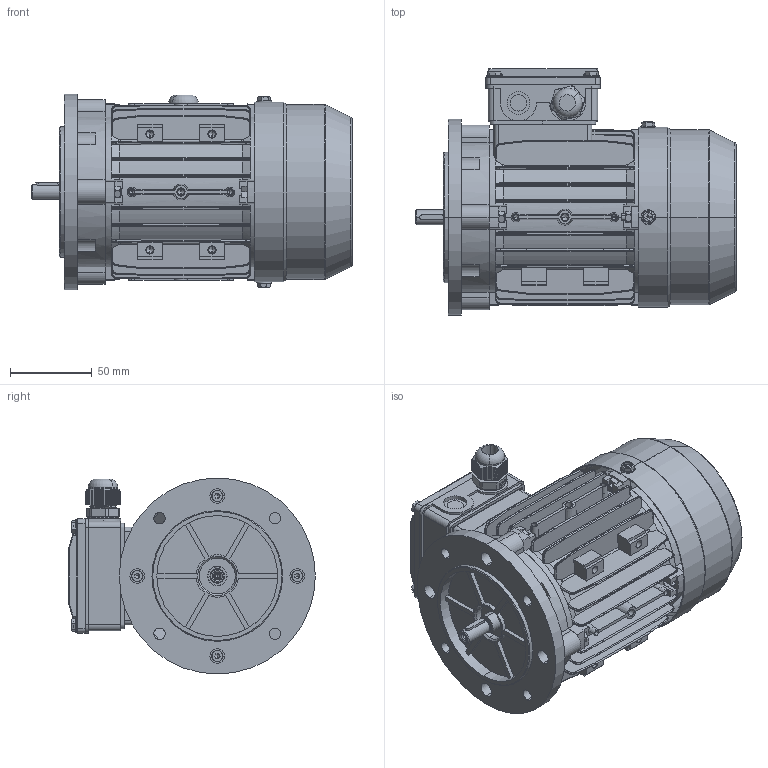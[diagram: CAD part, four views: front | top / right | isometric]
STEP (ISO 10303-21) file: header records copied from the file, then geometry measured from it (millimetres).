
FILE_DESCRIPTION (( 'STEP AP203' ), '1' );
FILE_NAME ('D56 assembly B5.STEP', '2018-11-19T06:04:58', ( 'user' ), ( 'china' ), 'SwSTEP 2.0', 'SolidWorks 2016', '' );
FILE_SCHEMA (( 'CONFIG_CONTROL_DESIGN' ));
Length unit declared in the file: millimetre
Products named in the file (15): M56傷裔B5; GB-T 29.2-1988 M4鞠褒坋趼湍菜_05; MS56諉盄碟(苤); GB-T 70.1-2000 M4_18; M56-Shaft drive end_R; GB-T 5780-2000 M4_020; M56瑞欶; M56儂褲; MS56諉盄碟釱(苤)_1Hole; GB-T 41-2000 M4; MS56 綴裔瑞欶郪磁; MS56諉盄碟裔(苤)_MS56; M16 cable gland; M56傷裔B3_N; D56 assembly B5
Assembly tree (27 placements, depth 3):
  D56 assembly B5
    M56儂褲
    M56-Shaft drive end_R
    MS56 綴裔瑞欶郪磁
      M56傷裔B3_N
      M56瑞欶
      GB-T 29.2-1988 M4鞠褒坋趼湍菜_05  x3
    GB-T 41-2000 M4  x5
    GB-T 70.1-2000 M4_18  x4
    GB-T 5780-2000 M4_020
    MS56諉盄碟(苤)
      MS56諉盄碟釱(苤)_1Hole
      MS56諉盄碟裔(苤)_MS56
      GB-T 29.2-1988 M4鞠褒坋趼湍菜_05  x4
      M16 cable gland
    M56傷裔B5
Bounding box: 196.5 x 151 x 120 mm (x, y, z)
Volume: 315107.2 mm3; surface area: 283119.2 mm2
Topology: 25 solids, 25 shells, 3007 faces, 7560 edges, 4631 vertices
Faces by surface type: plane 1276, cylinder 881, cone 382, bspline 302, torus 89, sphere 77
Entity records: 95447 total; most frequent: CARTESIAN_POINT 35830, ORIENTED_EDGE 12558, DIRECTION 11360, EDGE_CURVE 6279, AXIS2_PLACEMENT_3D 4076, VERTEX_POINT 3965, VECTOR 3208, LINE 3208
